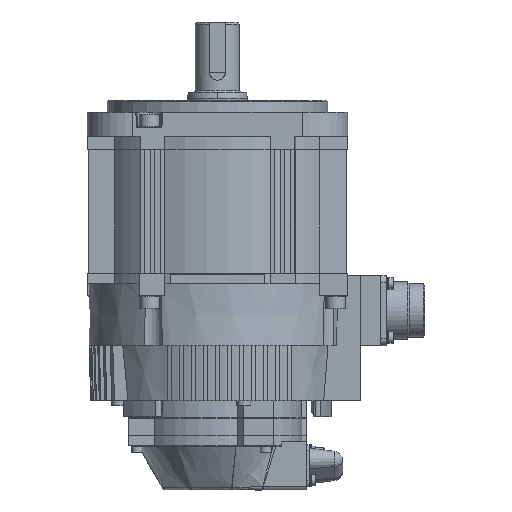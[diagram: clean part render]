
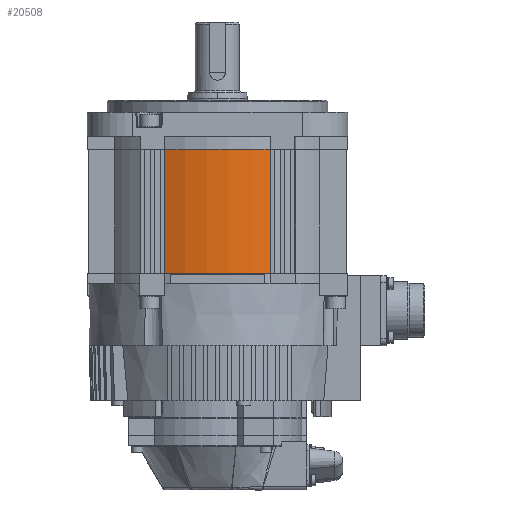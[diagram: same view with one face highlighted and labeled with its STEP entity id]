
A CAD part, left-side view. The second image highlights one B-rep face of the part: STEP entity #20508.
In plain terms, the highlighted cylindrical face has radius 64.3 mm (diameter 128.6 mm), a partial arc.
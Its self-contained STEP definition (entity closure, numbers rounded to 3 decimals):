
#146 = CARTESIAN_POINT ( 'NONE',  ( 0., 0., -18.6 ) ) ;
#1009 = ORIENTED_EDGE ( 'NONE', *, *, #30612, .F. ) ;
#5053 = DIRECTION ( 'NONE',  ( 0., 0., -1. ) ) ;
#5354 = EDGE_LOOP ( 'NONE', ( #40290, #49239, #1009, #45778 ) ) ;
#8532 = CARTESIAN_POINT ( 'NONE',  ( -58.677, -26.297, -80.4 ) ) ;
#9282 = CARTESIAN_POINT ( 'NONE',  ( -58.677, -26.297, -18.6 ) ) ;
#10111 = AXIS2_PLACEMENT_3D ( 'NONE', #38760, #34810, #31165 ) ;
#10173 = EDGE_CURVE ( 'NONE', #32976, #48312, #10979, .T. ) ;
#10979 = LINE ( 'NONE', #46401, #29482 ) ;
#11456 = CARTESIAN_POINT ( 'NONE',  ( -58.677, 26.297, -18.6 ) ) ;
#12365 = EDGE_CURVE ( 'NONE', #39362, #21450, #29505, .T. ) ;
#14273 = FACE_OUTER_BOUND ( 'NONE', #5354, .T. ) ;
#20508 = ADVANCED_FACE ( 'NONE', ( #14273 ), #30654, .T. ) ;
#21450 = VERTEX_POINT ( 'NONE', #51264 ) ;
#21685 = EDGE_CURVE ( 'NONE', #48312, #39362, #21861, .T. ) ;
#21861 = CIRCLE ( 'NONE', #45224, 64.3 ) ;
#23769 = DIRECTION ( 'NONE',  ( 0., -1., 0. ) ) ;
#26770 = DIRECTION ( 'NONE',  ( 0., 0., 1. ) ) ;
#29482 = VECTOR ( 'NONE', #26770, 1000. ) ;
#29505 = LINE ( 'NONE', #40749, #36384 ) ;
#30612 = EDGE_CURVE ( 'NONE', #32976, #21450, #42311, .T. ) ;
#30654 = CYLINDRICAL_SURFACE ( 'NONE', #10111, 64.3 ) ;
#31165 = DIRECTION ( 'NONE',  ( 0., -1., 0. ) ) ;
#31539 = DIRECTION ( 'NONE',  ( 0., 0., -1. ) ) ;
#32115 = DIRECTION ( 'NONE',  ( 0., 0., -1. ) ) ;
#32976 = VERTEX_POINT ( 'NONE', #8532 ) ;
#34810 = DIRECTION ( 'NONE',  ( 0., 0., 1. ) ) ;
#36384 = VECTOR ( 'NONE', #5053, 1000. ) ;
#38760 = CARTESIAN_POINT ( 'NONE',  ( 0., 0., -200.368 ) ) ;
#39153 = CARTESIAN_POINT ( 'NONE',  ( 0., 0., -80.4 ) ) ;
#39362 = VERTEX_POINT ( 'NONE', #11456 ) ;
#40290 = ORIENTED_EDGE ( 'NONE', *, *, #21685, .T. ) ;
#40749 = CARTESIAN_POINT ( 'NONE',  ( -58.677, 26.297, -98.906 ) ) ;
#42311 = CIRCLE ( 'NONE', #48119, 64.3 ) ;
#45224 = AXIS2_PLACEMENT_3D ( 'NONE', #146, #32115, #23769 ) ;
#45778 = ORIENTED_EDGE ( 'NONE', *, *, #10173, .T. ) ;
#46401 = CARTESIAN_POINT ( 'NONE',  ( -58.677, -26.297, -98.906 ) ) ;
#46751 = DIRECTION ( 'NONE',  ( 0., -1., 0. ) ) ;
#48119 = AXIS2_PLACEMENT_3D ( 'NONE', #39153, #31539, #46751 ) ;
#48312 = VERTEX_POINT ( 'NONE', #9282 ) ;
#49239 = ORIENTED_EDGE ( 'NONE', *, *, #12365, .T. ) ;
#51264 = CARTESIAN_POINT ( 'NONE',  ( -58.677, 26.297, -80.4 ) ) ;
